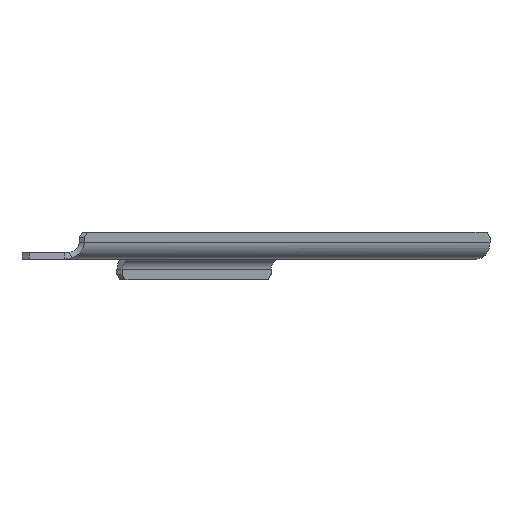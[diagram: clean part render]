
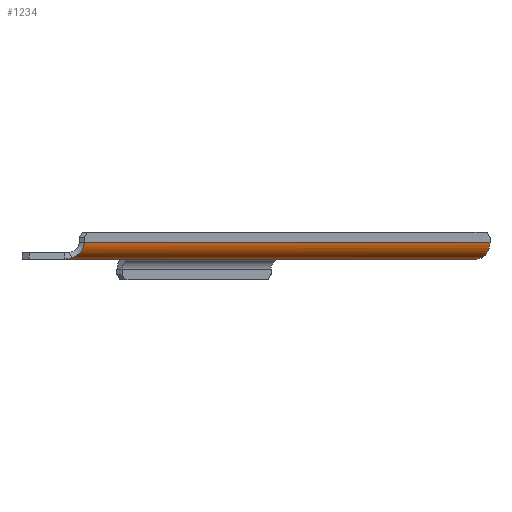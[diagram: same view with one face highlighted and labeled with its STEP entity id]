
A CAD part, left-side view. The second image highlights one B-rep face of the part: STEP entity #1234.
In plain terms, the highlighted cylindrical face has radius 16 mm (diameter 32 mm), a partial arc.
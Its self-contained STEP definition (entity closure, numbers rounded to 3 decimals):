
#169=ELLIPSE('',#1358,19.532,16.);
#170=ELLIPSE('',#1359,19.532,16.);
#236=CYLINDRICAL_SURFACE('',#1356,16.);
#270=FACE_OUTER_BOUND('',#355,.T.);
#355=EDGE_LOOP('',(#1039,#1040,#1041,#1042,#1043));
#431=LINE('',#1877,#532);
#449=LINE('',#1958,#550);
#532=VECTOR('',#1523,10.);
#550=VECTOR('',#1593,10.);
#635=CIRCLE('',#1357,16.);
#657=VERTEX_POINT('',#1777);
#698=VERTEX_POINT('',#1874);
#699=VERTEX_POINT('',#1876);
#722=VERTEX_POINT('',#1956);
#723=VERTEX_POINT('',#1959);
#803=EDGE_CURVE('',#699,#698,#431,.T.);
#838=EDGE_CURVE('',#698,#722,#635,.T.);
#839=EDGE_CURVE('',#722,#657,#449,.T.);
#840=EDGE_CURVE('',#657,#723,#169,.T.);
#841=EDGE_CURVE('',#723,#699,#170,.T.);
#1039=ORIENTED_EDGE('',*,*,#803,.T.);
#1040=ORIENTED_EDGE('',*,*,#838,.T.);
#1041=ORIENTED_EDGE('',*,*,#839,.T.);
#1042=ORIENTED_EDGE('',*,*,#840,.T.);
#1043=ORIENTED_EDGE('',*,*,#841,.T.);
#1234=ADVANCED_FACE('',(#270),#236,.T.);
#1356=AXIS2_PLACEMENT_3D('',#1955,#1589,#1590);
#1357=AXIS2_PLACEMENT_3D('',#1957,#1591,#1592);
#1358=AXIS2_PLACEMENT_3D('',#1960,#1594,#1595);
#1359=AXIS2_PLACEMENT_3D('',#1961,#1596,#1597);
#1523=DIRECTION('',(0.819,-0.574,0.));
#1589=DIRECTION('center_axis',(0.819,-0.574,0.));
#1590=DIRECTION('ref_axis',(-0.406,-0.579,-0.707));
#1591=DIRECTION('center_axis',(-0.819,0.574,0.));
#1592=DIRECTION('ref_axis',(0.,0.,
-1.));
#1593=DIRECTION('',(-0.819,0.574,0.));
#1594=DIRECTION('center_axis',(1.,0.,0.));
#1595=DIRECTION('ref_axis',(0.,-1.,0.));
#1596=DIRECTION('center_axis',(1.,0.,0.));
#1597=DIRECTION('ref_axis',(0.,-1.,0.));
#1777=CARTESIAN_POINT('',(-16.261,-83.224,10.));
#1874=CARTESIAN_POINT('',(550.091,-460.256,-6.));
#1876=CARTESIAN_POINT('',(-16.261,-63.692,-6.));
#1877=CARTESIAN_POINT('',(398.713,-354.259,-6.));
#1955=CARTESIAN_POINT('Origin',(398.713,-354.259,10.));
#1956=CARTESIAN_POINT('',(540.914,-473.362,10.));
#1957=CARTESIAN_POINT('Origin',(550.091,-460.256,10.));
#1958=CARTESIAN_POINT('',(389.535,-367.366,10.));
#1959=CARTESIAN_POINT('',(-16.261,-70.763,-4.915));
#1960=CARTESIAN_POINT('Origin',(-16.261,-63.692,10.));
#1961=CARTESIAN_POINT('Origin',(-16.261,-63.692,10.));
